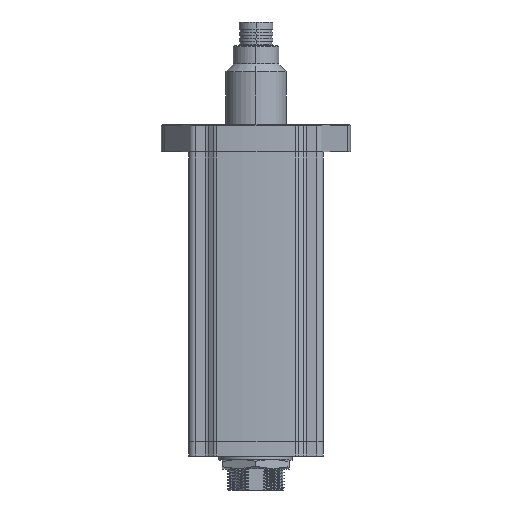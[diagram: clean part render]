
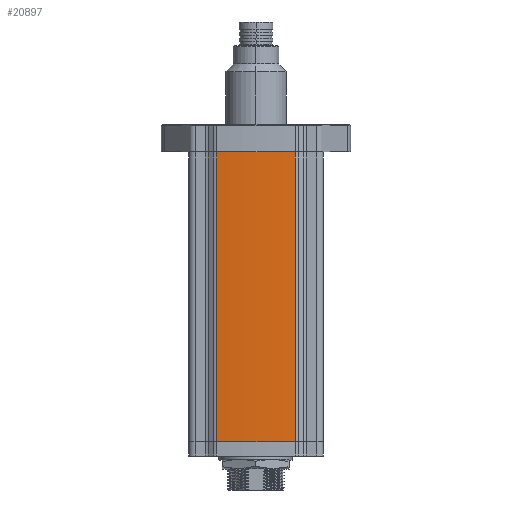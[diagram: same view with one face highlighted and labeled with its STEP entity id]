
A CAD part, left-side view. The second image highlights one B-rep face of the part: STEP entity #20897.
In plain terms, the highlighted cylindrical face has radius 165.395 mm (diameter 330.791 mm), a partial arc.
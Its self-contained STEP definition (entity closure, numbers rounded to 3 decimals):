
#19031=CARTESIAN_POINT('',(147.645,0.,-94.));
#19032=DIRECTION('',(0.,0.,-1.));
#19033=DIRECTION('',(-1.,0.,0.));
#19034=AXIS2_PLACEMENT_3D('',#19031,#19032,#19033);
#19036=CARTESIAN_POINT('',(147.645,0.,-94.));
#19037=DIRECTION('',(0.,0.,-1.));
#19038=DIRECTION('',(-0.997,-0.078,0.));
#19039=AXIS2_PLACEMENT_3D('',#19036,#19037,#19038);
#19910=CARTESIAN_POINT('',(147.645,0.,1.));
#19911=DIRECTION('',(0.,0.,1.));
#19912=DIRECTION('',(-1.,0.,0.));
#19913=AXIS2_PLACEMENT_3D('',#19910,#19911,#19912);
#19915=CARTESIAN_POINT('',(147.645,0.,1.));
#19916=DIRECTION('',(0.,0.,1.));
#19917=DIRECTION('',(-0.997,0.078,0.));
#19918=AXIS2_PLACEMENT_3D('',#19915,#19916,#19917);
#20390=DIRECTION('',(0.,0.,-1.));
#20391=VECTOR('',#20390,95.);
#20392=CARTESIAN_POINT('',(-17.25,-12.847,1.));
#20393=LINE('',#20392,#20391);
#20406=DIRECTION('',(0.,0.,1.));
#20407=VECTOR('',#20406,95.);
#20408=CARTESIAN_POINT('',(-17.25,12.847,-94.));
#20409=LINE('',#20408,#20407);
#20438=CARTESIAN_POINT('',(-17.75,0.,-94.));
#20439=CARTESIAN_POINT('',(-17.25,12.847,-94.));
#20440=VERTEX_POINT('',#20438);
#20441=VERTEX_POINT('',#20439);
#20442=CARTESIAN_POINT('',(-17.25,-12.847,-94.));
#20443=VERTEX_POINT('',#20442);
#20444=CARTESIAN_POINT('',(-17.25,-12.847,1.));
#20445=VERTEX_POINT('',#20444);
#20446=CARTESIAN_POINT('',(-17.25,12.847,1.));
#20447=CARTESIAN_POINT('',(-17.75,0.,1.));
#20448=VERTEX_POINT('',#20446);
#20449=VERTEX_POINT('',#20447);
#20878=CARTESIAN_POINT('',(147.645,0.,-5.));
#20879=DIRECTION('',(0.,0.,1.));
#20880=DIRECTION('',(1.,0.,0.));
#20881=AXIS2_PLACEMENT_3D('',#20878,#20879,#20880);
#20882=CYLINDRICAL_SURFACE('',#20881,165.395);
#20884=ORIENTED_EDGE('',*,*,#20883,.T.);
#20886=ORIENTED_EDGE('',*,*,#20885,.T.);
#20888=ORIENTED_EDGE('',*,*,#20887,.T.);
#20890=ORIENTED_EDGE('',*,*,#20889,.T.);
#20892=ORIENTED_EDGE('',*,*,#20891,.T.);
#20894=ORIENTED_EDGE('',*,*,#20893,.T.);
#20895=EDGE_LOOP('',(#20884,#20886,#20888,#20890,#20892,#20894));
#20896=FACE_OUTER_BOUND('',#20895,.F.);
#20897=ADVANCED_FACE('',(#20896),#20882,.T.);
#19035=CIRCLE('',#19034,165.395);
#19040=CIRCLE('',#19039,165.395);
#19914=CIRCLE('',#19913,165.395);
#19919=CIRCLE('',#19918,165.395);
#20883=EDGE_CURVE('',#20440,#20441,#19035,.T.);
#20885=EDGE_CURVE('',#20441,#20448,#20409,.T.);
#20887=EDGE_CURVE('',#20448,#20449,#19919,.T.);
#20889=EDGE_CURVE('',#20449,#20445,#19914,.T.);
#20891=EDGE_CURVE('',#20445,#20443,#20393,.T.);
#20893=EDGE_CURVE('',#20443,#20440,#19040,.T.);
